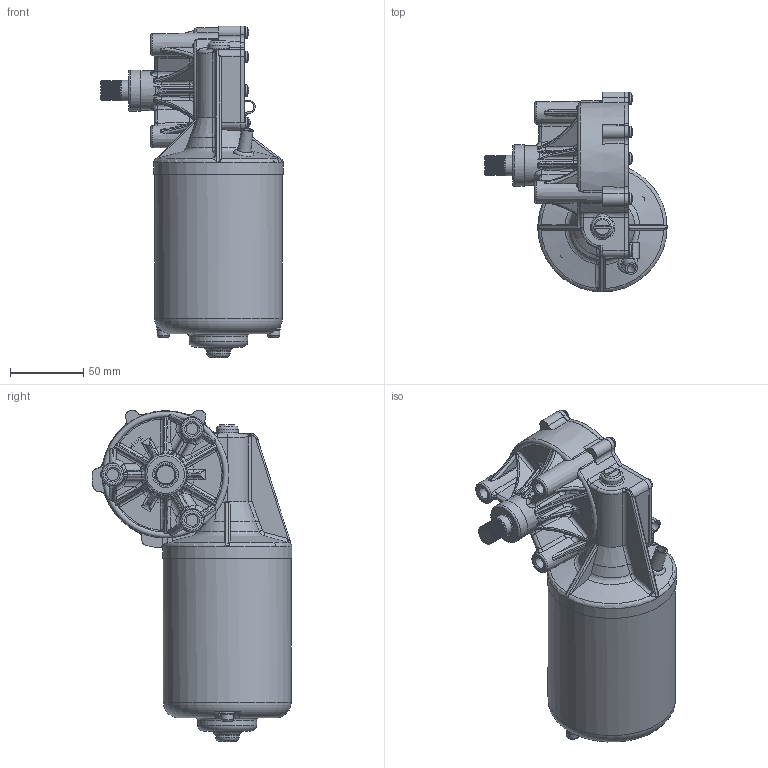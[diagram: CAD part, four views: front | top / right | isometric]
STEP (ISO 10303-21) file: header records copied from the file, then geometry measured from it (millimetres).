
FILE_DESCRIPTION(/* description */ (''),/* implementation_level */ '2;1');
FILE_NAME(/* name */ 'C:\Users\tecnico6\Desktop\0 986 337 411.stp',/* time_stamp */ '2014-03-11T13:47:34+01:00',/* author */ ('tecnico6'),/* organization */ (''),/* preprocessor_version */ 'ST-DEVELOPER v15.2',/* originating_system */ 'Autodesk Inventor 2014',/* authorisation */ '');
FILE_SCHEMA (('AUTOMOTIVE_DESIGN { 1 0 10303 214 3 1 1 }'));
Length unit declared in the file: millimetre
Products named in the file (1): 0 986 337 411
Bounding box: 124 x 136 x 225.77 mm (x, y, z)
Surface area: 166314.3 mm2
Topology: 20 solids, 21 shells, 1835 faces, 4918 edges, 3158 vertices
Faces by surface type: plane 775, cylinder 470, bspline 240, cone 175, torus 165, sphere 10
Full cylindrical faces by diameter (mm): 2.8 x2, 3 x3, 3.621 x6, 4 x6, 4.2 x3, 4.5 x10, 5 x4, 5.3 x2, 6 x1, 7.5 x1, 8 x4, 8.5 x2, 9 x1, 9.5 x1, 11 x1, 11.5 x1, 12 x1, 12.3 x1, 12.9 x1, 14 x2, 15 x2, 16 x1, 18 x1, 22 x1, 28 x2, 33.1 x1, 35 x1, 40 x2, 82 x1, 87 x1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
Entity records: 68306 total; most frequent: CARTESIAN_POINT 24509, ORIENTED_EDGE 9342, DIRECTION 7930, EDGE_CURVE 4670, AXIS2_PLACEMENT_3D 3217, VERTEX_POINT 3083, EDGE_LOOP 2060, ADVANCED_FACE 1833
